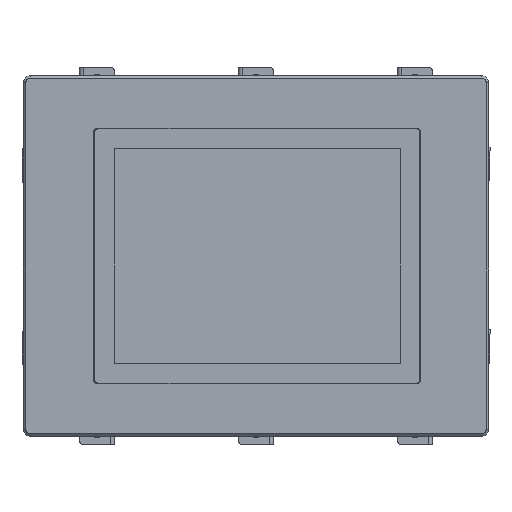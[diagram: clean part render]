
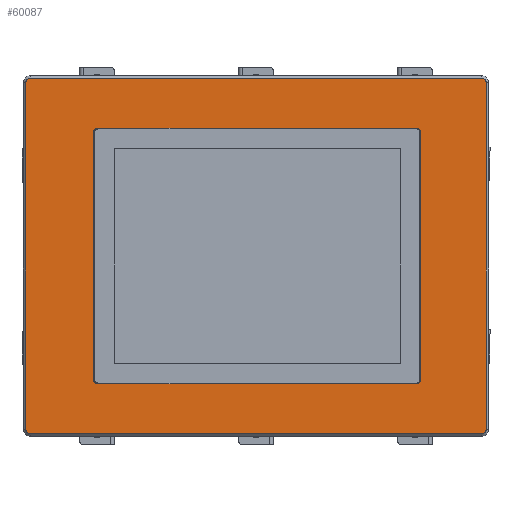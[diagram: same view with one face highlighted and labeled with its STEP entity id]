
A CAD part, top view. The second image highlights one B-rep face of the part: STEP entity #60087.
In plain terms, the highlighted planar face has unit normal (0, 0, 1).
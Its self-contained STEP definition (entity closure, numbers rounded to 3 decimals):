
#2006=FACE_BOUND('',#8469,.T.);
#2460=PLANE('',#64095);
#4977=FACE_OUTER_BOUND('',#8468,.T.);
#8468=EDGE_LOOP('',(#41781,#41782,#41783,#41784,#41785,#41786,#41787,#41788));
#8469=EDGE_LOOP('',(#41789,#41790,#41791,#41792,#41793,#41794,#41795,#41796));
#12098=LINE('',#95179,#17420);
#12102=LINE('',#95188,#17424);
#12105=LINE('',#95196,#17427);
#12108=LINE('',#95204,#17430);
#12109=LINE('',#95210,#17431);
#12110=LINE('',#95214,#17432);
#12111=LINE('',#95218,#17433);
#12112=LINE('',#95222,#17434);
#17420=VECTOR('',#71544,10.);
#17424=VECTOR('',#71554,10.);
#17427=VECTOR('',#71563,10.);
#17430=VECTOR('',#71572,10.);
#17431=VECTOR('',#71579,10.);
#17432=VECTOR('',#71582,10.);
#17433=VECTOR('',#71585,10.);
#17434=VECTOR('',#71588,10.);
#22467=CIRCLE('',#64085,3.8);
#22468=CIRCLE('',#64088,3.8);
#22469=CIRCLE('',#64091,3.8);
#22470=CIRCLE('',#64094,3.8);
#22471=CIRCLE('',#64096,4.);
#22472=CIRCLE('',#64097,4.);
#22473=CIRCLE('',#64098,4.);
#22474=CIRCLE('',#64099,4.);
#25034=VERTEX_POINT('',#95176);
#25035=VERTEX_POINT('',#95178);
#25036=VERTEX_POINT('',#95182);
#25037=VERTEX_POINT('',#95186);
#25038=VERTEX_POINT('',#95190);
#25039=VERTEX_POINT('',#95194);
#25040=VERTEX_POINT('',#95198);
#25041=VERTEX_POINT('',#95202);
#25042=VERTEX_POINT('',#95208);
#25043=VERTEX_POINT('',#95209);
#25044=VERTEX_POINT('',#95211);
#25045=VERTEX_POINT('',#95213);
#25046=VERTEX_POINT('',#95215);
#25047=VERTEX_POINT('',#95217);
#25048=VERTEX_POINT('',#95219);
#25049=VERTEX_POINT('',#95221);
#31224=EDGE_CURVE('',#25034,#25035,#12098,.T.);
#31227=EDGE_CURVE('',#25036,#25034,#22467,.T.);
#31229=EDGE_CURVE('',#25037,#25036,#12102,.T.);
#31231=EDGE_CURVE('',#25038,#25037,#22468,.T.);
#31233=EDGE_CURVE('',#25039,#25038,#12105,.T.);
#31235=EDGE_CURVE('',#25040,#25039,#22469,.T.);
#31237=EDGE_CURVE('',#25041,#25040,#12108,.T.);
#31238=EDGE_CURVE('',#25035,#25041,#22470,.T.);
#31239=EDGE_CURVE('',#25042,#25043,#12109,.T.);
#31240=EDGE_CURVE('',#25044,#25042,#22471,.T.);
#31241=EDGE_CURVE('',#25045,#25044,#12110,.T.);
#31242=EDGE_CURVE('',#25046,#25045,#22472,.T.);
#31243=EDGE_CURVE('',#25047,#25046,#12111,.T.);
#31244=EDGE_CURVE('',#25048,#25047,#22473,.T.);
#31245=EDGE_CURVE('',#25049,#25048,#12112,.T.);
#31246=EDGE_CURVE('',#25043,#25049,#22474,.T.);
#41781=ORIENTED_EDGE('',*,*,#31239,.F.);
#41782=ORIENTED_EDGE('',*,*,#31240,.F.);
#41783=ORIENTED_EDGE('',*,*,#31241,.F.);
#41784=ORIENTED_EDGE('',*,*,#31242,.F.);
#41785=ORIENTED_EDGE('',*,*,#31243,.F.);
#41786=ORIENTED_EDGE('',*,*,#31244,.F.);
#41787=ORIENTED_EDGE('',*,*,#31245,.F.);
#41788=ORIENTED_EDGE('',*,*,#31246,.F.);
#41789=ORIENTED_EDGE('',*,*,#31224,.F.);
#41790=ORIENTED_EDGE('',*,*,#31227,.F.);
#41791=ORIENTED_EDGE('',*,*,#31229,.F.);
#41792=ORIENTED_EDGE('',*,*,#31231,.F.);
#41793=ORIENTED_EDGE('',*,*,#31233,.F.);
#41794=ORIENTED_EDGE('',*,*,#31235,.F.);
#41795=ORIENTED_EDGE('',*,*,#31237,.F.);
#41796=ORIENTED_EDGE('',*,*,#31238,.F.);
#60087=ADVANCED_FACE('',(#4977,#2006),#2460,.F.);
#64085=AXIS2_PLACEMENT_3D('',#95184,#71549,#71550);
#64088=AXIS2_PLACEMENT_3D('',#95192,#71558,#71559);
#64091=AXIS2_PLACEMENT_3D('',#95200,#71567,#71568);
#64094=AXIS2_PLACEMENT_3D('',#95206,#71575,#71576);
#64095=AXIS2_PLACEMENT_3D('',#95207,#71577,#71578);
#64096=AXIS2_PLACEMENT_3D('',#95212,#71580,#71581);
#64097=AXIS2_PLACEMENT_3D('',#95216,#71583,#71584);
#64098=AXIS2_PLACEMENT_3D('',#95220,#71586,#71587);
#64099=AXIS2_PLACEMENT_3D('',#95223,#71589,#71590);
#71544=DIRECTION('',(0.,1.,0.));
#71549=DIRECTION('center_axis',(0.,0.,1.));
#71550=DIRECTION('ref_axis',(1.,0.,0.));
#71554=DIRECTION('',(1.,0.,0.));
#71558=DIRECTION('center_axis',(0.,0.,1.));
#71559=DIRECTION('ref_axis',(0.,-1.,0.));
#71563=DIRECTION('',(0.,-1.,0.));
#71567=DIRECTION('center_axis',(0.,0.,1.));
#71568=DIRECTION('ref_axis',(-1.,0.,0.));
#71572=DIRECTION('',(-1.,0.,0.));
#71575=DIRECTION('center_axis',(0.,0.,1.));
#71576=DIRECTION('ref_axis',(0.,1.,0.));
#71577=DIRECTION('center_axis',(0.,0.,-1.));
#71578=DIRECTION('ref_axis',(-1.,0.,0.));
#71579=DIRECTION('',(0.,-1.,0.));
#71580=DIRECTION('center_axis',(0.,0.,-1.));
#71581=DIRECTION('ref_axis',(0.707,0.707,0.));
#71582=DIRECTION('',(1.,0.,0.));
#71583=DIRECTION('center_axis',(0.,0.,-1.));
#71584=DIRECTION('ref_axis',(-0.707,0.707,0.));
#71585=DIRECTION('',(0.,1.,0.));
#71586=DIRECTION('center_axis',(0.,0.,-1.));
#71587=DIRECTION('ref_axis',(-0.707,-0.707,0.));
#71588=DIRECTION('',(-1.,0.,0.));
#71589=DIRECTION('center_axis',(0.,0.,-1.));
#71590=DIRECTION('ref_axis',(0.707,-0.707,0.));
#95176=CARTESIAN_POINT('',(140.425,-106.03,2.));
#95178=CARTESIAN_POINT('',(140.425,106.47,2.));
#95179=CARTESIAN_POINT('',(140.425,-52.905,2.));
#95182=CARTESIAN_POINT('',(136.625,-109.83,2.));
#95184=CARTESIAN_POINT('Origin',(136.625,-106.03,2.));
#95186=CARTESIAN_POINT('',(-137.375,-109.83,2.));
#95188=CARTESIAN_POINT('',(-69.375,-109.83,2.));
#95190=CARTESIAN_POINT('',(-141.175,-106.03,2.));
#95192=CARTESIAN_POINT('Origin',(-137.375,-106.03,2.));
#95194=CARTESIAN_POINT('',(-141.175,106.47,2.));
#95196=CARTESIAN_POINT('',(-141.175,53.345,2.));
#95198=CARTESIAN_POINT('',(-137.375,110.27,2.));
#95200=CARTESIAN_POINT('Origin',(-137.375,106.47,2.));
#95202=CARTESIAN_POINT('',(136.625,110.27,2.));
#95204=CARTESIAN_POINT('',(67.625,110.27,2.));
#95206=CARTESIAN_POINT('Origin',(136.625,106.47,2.));
#95207=CARTESIAN_POINT('Origin',(-1.375,0.22,2.));
#95208=CARTESIAN_POINT('',(196.625,149.22,2.));
#95209=CARTESIAN_POINT('',(196.625,-148.78,2.));
#95210=CARTESIAN_POINT('',(196.625,77.72,2.));
#95211=CARTESIAN_POINT('',(192.625,153.22,2.));
#95212=CARTESIAN_POINT('Origin',(192.625,149.22,2.));
#95213=CARTESIAN_POINT('',(-195.375,153.22,2.));
#95214=CARTESIAN_POINT('',(-101.375,153.22,2.));
#95215=CARTESIAN_POINT('',(-199.375,149.22,2.));
#95216=CARTESIAN_POINT('Origin',(-195.375,149.22,2.));
#95217=CARTESIAN_POINT('',(-199.375,-148.78,2.));
#95218=CARTESIAN_POINT('',(-199.375,-77.28,2.));
#95219=CARTESIAN_POINT('',(-195.375,-152.78,2.));
#95220=CARTESIAN_POINT('Origin',(-195.375,-148.78,2.));
#95221=CARTESIAN_POINT('',(192.625,-152.78,2.));
#95222=CARTESIAN_POINT('',(98.625,-152.78,2.));
#95223=CARTESIAN_POINT('Origin',(192.625,-148.78,2.));
